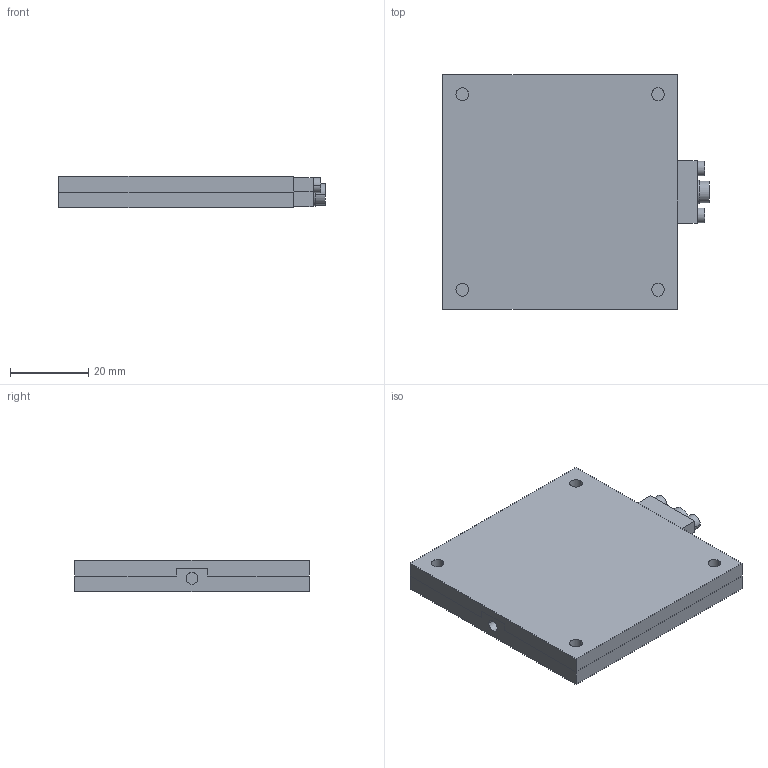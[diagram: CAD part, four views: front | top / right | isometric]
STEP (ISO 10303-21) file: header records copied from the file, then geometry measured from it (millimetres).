
FILE_DESCRIPTION(('CATIA V5 STEP','CAx-IF Rec.Pracs.--- Model Styling and Organization---1.4--- 2014-01-23','CAx-IF Rec.Pracs.---3D Tessellated Data Validation Properties---0.5---2014-09-14'),'2;1');
FILE_NAME('C:\Users\01084\Desktop\LKS-FR-60T.stp','2023-12-08T02:22:58+00:00',('none'),('none'),'CATIA Version 5-6 Release 2018 SP6','CATIA V5 STEP AP242','none');
FILE_SCHEMA(('AP242_MANAGED_MODEL_BASED_3D_ENGINEERING_MIM_LF {1 0 10303 442 1 1 4}'));
Length unit declared in the file: millimetre
Products named in the file (3): LKS-FR-60T; Base_60T; Table_60T
Assembly tree (2 placements, depth 2):
  LKS-FR-60T
    Base_60T
    Table_60T
Bounding box: 68.1 x 60 x 8 mm (x, y, z)
Volume: 27504 mm3; surface area: 18061.9 mm2
Topology: 2 solids, 2 shells, 101 faces, 244 edges, 162 vertices
Faces by surface type: plane 59, cylinder 42
Entity records: 2813 total; most frequent: ORIENTED_EDGE 488, CARTESIAN_POINT 481, DIRECTION 394, EDGE_CURVE 244, VERTEX_POINT 162, VECTOR 160, LINE 160, AXIS2_PLACEMENT_3D 159
